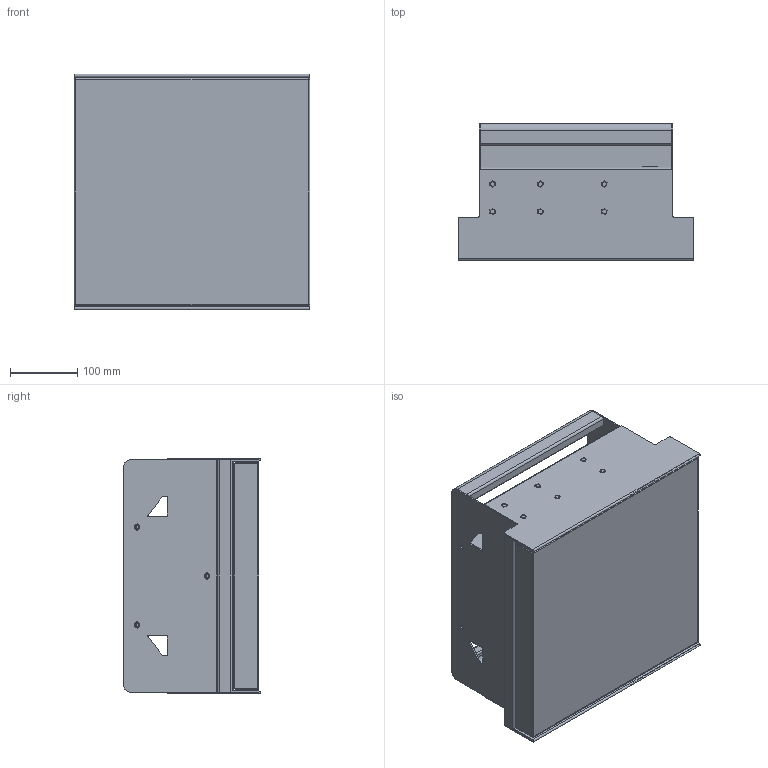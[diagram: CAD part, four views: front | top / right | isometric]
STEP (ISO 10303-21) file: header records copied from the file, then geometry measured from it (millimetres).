
FILE_DESCRIPTION(/* description */ (''),/* implementation_level */ '2;1');
FILE_NAME(/* name */ 'Dragon-KX12 I',/* time_stamp */ '2026-02-16T15:56:54+01:00',/* author */ (''),/* organization */ (''),/* preprocessor_version */ 'ST-DEVELOPER v19.2',/* originating_system */ 'Rhino 8.24',/* authorisation */ '');
FILE_SCHEMA (('CONFIG_CONTROL_DESIGN'));
Products named in the file (4): Document; VTA2,9X13STINO; SPEAKONEUTRIKAUTO; MCP098A17_04
Bounding box: 350 x 203 x 350 mm (x, y, z)
Volume: 1307103.8 mm3; surface area: 1438979.7 mm2
Topology: 48 solids, 48 shells, 4057 faces, 9695 edges, 5842 vertices
Faces by surface type: plane 1594, cylinder 1471, bspline 992
Entity records: 183123 total; most frequent: CARTESIAN_POINT 104019, ORIENTED_EDGE 18422, DIRECTION 10529, EDGE_CURVE 9211, AXIS2_PLACEMENT_3D 6720, VERTEX_POINT 5541, B_SPLINE_CURVE_WITH_KNOTS 5401, EDGE_LOOP 4222
